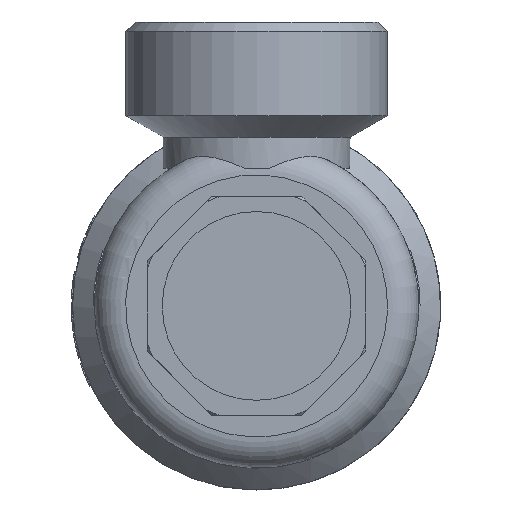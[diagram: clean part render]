
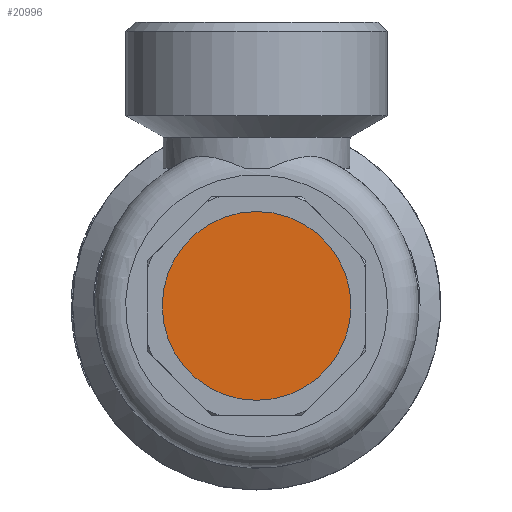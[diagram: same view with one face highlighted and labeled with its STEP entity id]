
A CAD part, left-side view. The second image highlights one B-rep face of the part: STEP entity #20996.
In plain terms, the highlighted planar face has unit normal (-1, 0, 0).
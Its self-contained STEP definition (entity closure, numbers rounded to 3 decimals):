
#20980=CARTESIAN_POINT('',(20.,7.562,0.0));
#20981=DIRECTION('',(-1.0,0.0,0.0));
#20982=DIRECTION('',(0.0,0.0,1.0));
#20983=AXIS2_PLACEMENT_3D('',#20980,#20981,#20982);
#20984=PLANE('',#20983);
#20985=CARTESIAN_POINT('',(20.,15.125,0.0));
#20986=VERTEX_POINT('',#20985);
#20987=CARTESIAN_POINT('',(20.,0.,0.0));
#20988=DIRECTION('',(1.0,0.0,0.0));
#20989=DIRECTION('',(0.0,1.0,0.0));
#20990=AXIS2_PLACEMENT_3D('',#20987,#20988,#20989);
#20991=CIRCLE('',#20990,15.125);
#20992=EDGE_CURVE('',#20986,#20986,#20991,.T.);
#20993=ORIENTED_EDGE('',*,*,#20992,.F.);
#20994=EDGE_LOOP('',(#20993));
#20995=FACE_OUTER_BOUND('',#20994,.T.);
#20996=ADVANCED_FACE('',(#20995),#20984,.T.);
